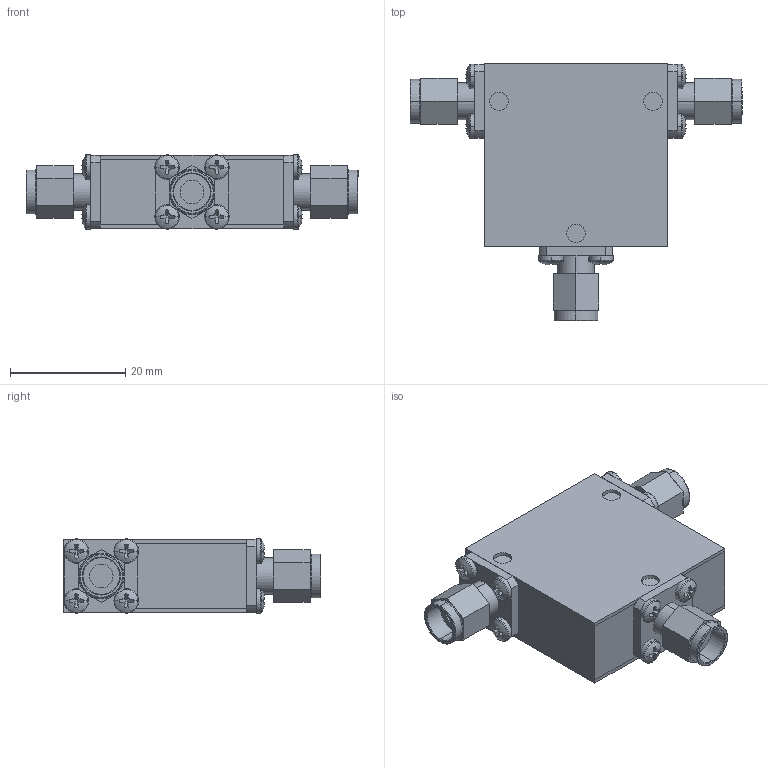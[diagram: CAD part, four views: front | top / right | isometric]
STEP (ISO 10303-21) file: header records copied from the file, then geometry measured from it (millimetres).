
FILE_DESCRIPTION (( 'STEP AP214' ), '1' );
FILE_NAME ('D3C3090-3 1.25x1.25x0.5 MMM.step', '2021-12-01T20:55:35', ( '' ), ( '' ), 'SwSTEP 2.0', 'SolidWorks 2016', '' );
FILE_SCHEMA (( 'AUTOMOTIVE_DESIGN' ));
Length unit declared in the file: inch
Products named in the file (5): D3I3090 1.25x1.25x0.5; D3C3090-3 1.25x1.25x0.5 MMM; pan cross head_ai_CR-PHMS 0.086-56x0.125x0.125-N; D3I3090 1.25x1.225x0.45; Delta SMA-Male
Assembly tree (17 placements, depth 2):
  D3C3090-3 1.25x1.25x0.5 MMM
    D3I3090 1.25x1.225x0.45
    D3I3090 1.25x1.25x0.5
    pan cross head_ai_CR-PHMS 0.086-56x0.125x0.125-N  x12
    Delta SMA-Male  x3
Bounding box: 57.51 x 44.63 x 12.88 mm (x, y, z)
Volume: 14663.2 mm3; surface area: 11745.8 mm2
Topology: 17 solids, 17 shells, 445 faces, 1014 edges, 624 vertices
Faces by surface type: plane 259, cylinder 120, torus 42, sphere 24
Entity records: 3248 total; most frequent: DIRECTION 584, CARTESIAN_POINT 504, ORIENTED_EDGE 472, EDGE_CURVE 236, AXIS2_PLACEMENT_3D 230, VERTEX_POINT 150, EDGE_LOOP 124, VECTOR 124
